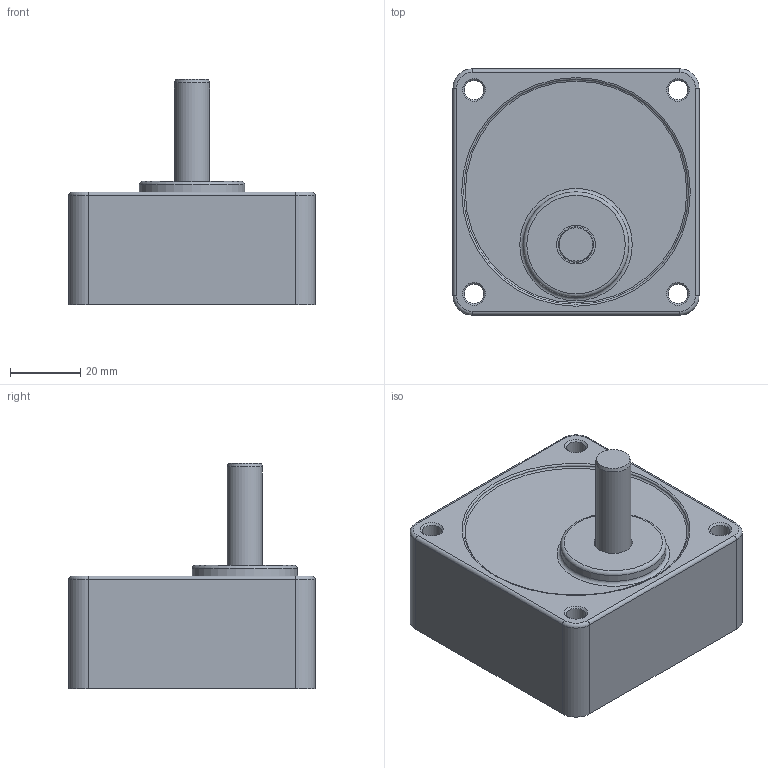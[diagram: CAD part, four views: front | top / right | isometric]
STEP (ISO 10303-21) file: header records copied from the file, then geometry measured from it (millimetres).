
FILE_DESCRIPTION((''),'2;1');
FILE_NAME('D:\STP파일\GEAR HEAD\15W\S7SA3~18.stp','2013-05-20T19:09:52',('leebh'),(''),'Autodesk Inventor 2011','Autodesk Inventor 2011','');
FILE_SCHEMA(('AUTOMOTIVE_DESIGN { 1 0 10303 214 1 1 1 1 }'));
Length unit declared in the file: millimetre
Products named in the file (1): S9I90G-T1
Bounding box: 70 x 70 x 64 mm (x, y, z)
Volume: 138055.9 mm3; surface area: 23183.1 mm2
Topology: 1 solids, 1 shells, 42 faces, 86 edges, 52 vertices
Faces by surface type: cylinder 17, plane 12, torus 8, cone 5
Full cylindrical faces by diameter (mm): 5.5 x4, 7 x1, 10 x1, 11 x1, 30 x1, 64 x1
Entity records: 1062 total; most frequent: DIRECTION 202, CARTESIAN_POINT 163, ORIENTED_EDGE 136, AXIS2_PLACEMENT_3D 91, EDGE_LOOP 74, EDGE_CURVE 68, VERTEX_POINT 52, CIRCLE 48
